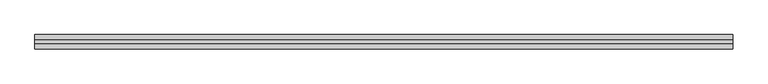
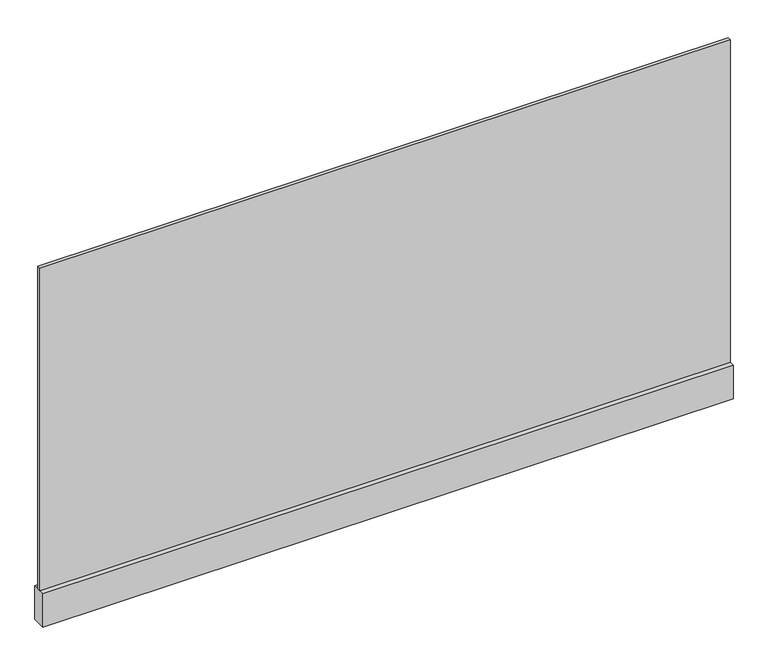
"""IFC4 building model written with IfcOpenShell, lengths in millimetres: plate geometry, r パネル FIX 下框付 : 框 H100."""

from ifc_helpers import new_model, si_unit, frame, origin, origin_with_axes, place, context, project, spatial, polyline, outline, extrude, source, transform, mapped, element, save


def plate_28239825(model_context):
    return source(origin(), model_context, "Body", "SweptSolid", [
        extrude(outline(polyline([(-986.6666667, 5.0), (986.6666667, 5.0), (986.6666667, -5.0), (-986.6666667, -5.0), (-986.6666667, 5.0)])), frame((0.0, 0.0, 100.0), z_axis=(0.0, 0.0, 1.0), x_axis=(1.0, 0.0, 0.0)), (0.0, 0.0, 1.0), 975.0),
        extrude(outline(polyline([(-986.6666667, 20.0), (986.6666667, 20.0), (986.6666667, -20.0), (-986.6666667, -20.0), (-986.6666667, 20.0)])), origin_with_axes(), (0.0, 0.0, 1.0), 100.0),
    ])


if __name__ == "__main__":
    model = new_model("IFC4")
    model_context = context("Model", 3, world=origin())
    ifc_project = project(units=[si_unit("LENGTHUNIT", "METRE", prefix="MILLI")], contexts=[model_context])
    site = spatial("IfcSite", under=ifc_project)
    building = spatial("IfcBuilding", under=site)
    placement = place(None, origin())
    plate_shape = plate_28239825(model_context)
    element("IfcPlate", 1, ObjectType="r パネル FIX 下框付 : 框 H100", at=placement, inside=building, context=model_context, shape_type="MappedRepresentation", body=[
        mapped(plate_shape, transform((0.0, 0.0, 0.0), x_axis=(1.0, 0.0, 0.0), y_axis=(0.0, 1.0, 0.0), z_axis=(0.0, 0.0, 1.0))),
    ])
    save(model, "model.ifc")
